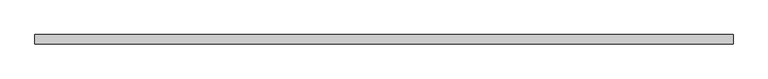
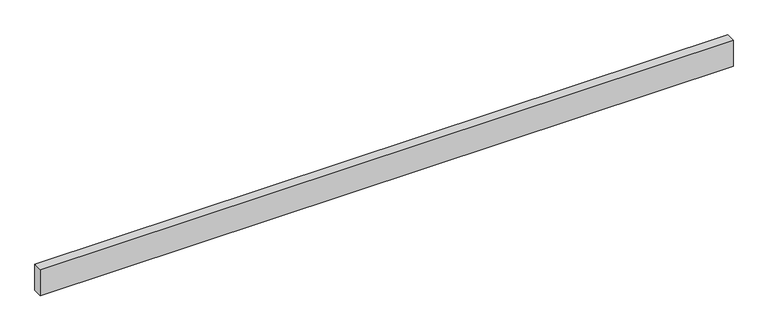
"""IFC4 building model written with IfcOpenShell, lengths in millimetres: beam geometry, Мерные пиломатериалы : 50х150 мм."""

from ifc_helpers import new_model, si_unit, frame, origin, place, context, project, spatial, polyline, outline, extrude, source, transform, mapped, element, save


def beam_a5dc1c18(model_context):
    return source(origin(), model_context, "Body", "SweptSolid", [
        extrude(outline(polyline([(1890.0, 25.0), (1890.0, -25.0), (-1890.0, -25.0), (-1890.0, 25.0), (1890.0, 25.0)])), frame((0.0, 0.0, -75.0), z_axis=(0.0, 0.0, 1.0), x_axis=(1.0, 0.0, 0.0)), (0.0, 0.0, 1.0), 150.0),
    ])


if __name__ == "__main__":
    model = new_model("IFC4")
    model_context = context("Model", 3, world=origin())
    ifc_project = project(units=[si_unit("LENGTHUNIT", "METRE", prefix="MILLI")], contexts=[model_context])
    site = spatial("IfcSite", under=ifc_project)
    building = spatial("IfcBuilding", under=site)
    placement = place(None, origin())
    beam_shape = beam_a5dc1c18(model_context)
    element("IfcBeam", 1, ObjectType="Мерные пиломатериалы : 50х150 мм", at=placement, inside=building, context=model_context, shape_type="MappedRepresentation", body=[
        mapped(beam_shape, transform((0.0, 0.0, 0.0), x_axis=(1.0, 0.0, 0.0), y_axis=(0.0, 1.0, 0.0), z_axis=(0.0, 0.0, 1.0))),
    ])
    save(model, "model.ifc")
